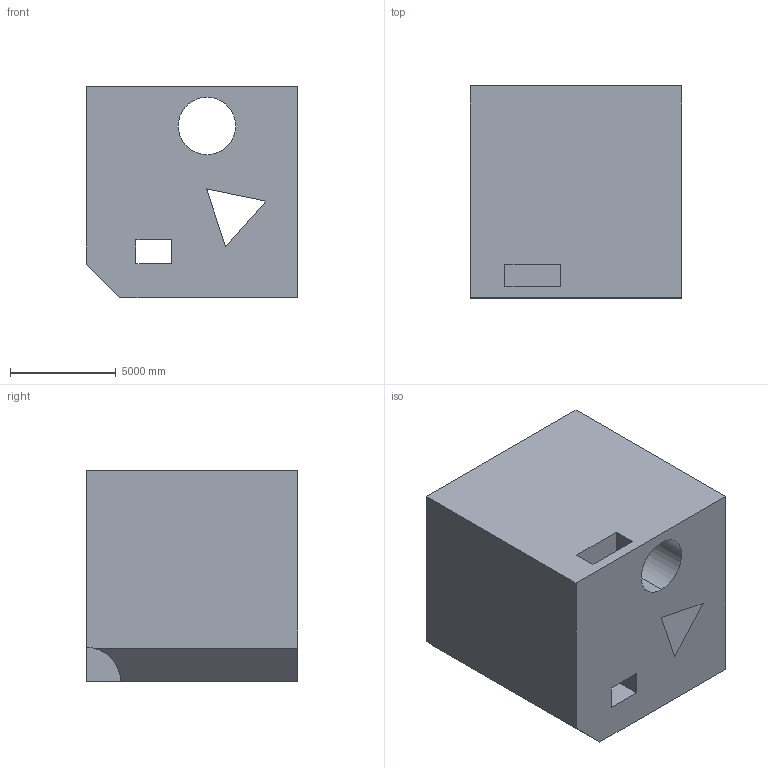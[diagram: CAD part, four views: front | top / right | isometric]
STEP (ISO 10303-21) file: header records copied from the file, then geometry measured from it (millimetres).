
FILE_DESCRIPTION (( 'STEP AP203' ), '1' );
FILE_NAME ('1563.STEP', '2022-08-18T15:49:16', ( 'user' ), ( '' ), 'SwSTEP 2.0', 'SolidWorks 2021', '' );
FILE_SCHEMA (( 'CONFIG_CONTROL_DESIGN' ));
Length unit declared in the file: centimetre
Products named in the file (1): 1563
Bounding box: 10000 x 10000 x 10000 mm (x, y, z)
Volume: 850653983425.8 mm3; surface area: 812972273.6 mm2
Topology: 1 solids, 1 shells, 23 faces, 63 edges, 42 vertices
Faces by surface type: plane 20, cylinder 3
Entity records: 814 total; most frequent: CARTESIAN_POINT 132, ORIENTED_EDGE 126, DIRECTION 118, EDGE_CURVE 63, VECTOR 54, LINE 54, VERTEX_POINT 42, AXIS2_PLACEMENT_3D 32
